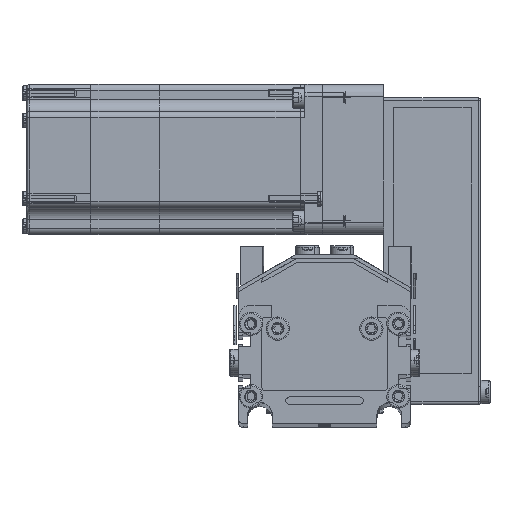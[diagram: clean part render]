
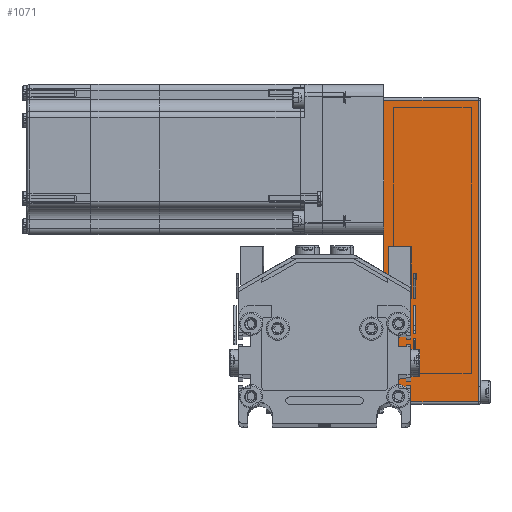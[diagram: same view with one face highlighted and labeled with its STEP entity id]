
A CAD part, top view. The second image highlights one B-rep face of the part: STEP entity #1071.
In plain terms, the highlighted planar face has unit normal (0, 0, 1) as drawn and (0, 1, 0) by its records, which use the part's own axes.
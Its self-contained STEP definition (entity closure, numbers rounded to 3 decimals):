
#904 = ORIENTED_EDGE ( 'NONE', *, *, #1066, .T. ) ;
#908 = VERTEX_POINT ( 'NONE', #61968 ) ;
#994 = EDGE_LOOP ( 'NONE', ( #904, #1130, #1134, #1136 ) ) ;
#1066 = EDGE_CURVE ( 'NONE', #1069, #908, #63330, .T. ) ;
#1069 = VERTEX_POINT ( 'NONE', #63304 ) ;
#1071 = ADVANCED_FACE ( 'NONE', ( #63302 ), #63398, .F. ) ;
#1130 = ORIENTED_EDGE ( 'NONE', *, *, #1208, .T. ) ;
#1131 = EDGE_CURVE ( 'NONE', #1211, #1207, #63089, .T. ) ;
#1134 = ORIENTED_EDGE ( 'NONE', *, *, #1131, .T. ) ;
#1135 = EDGE_CURVE ( 'NONE', #1207, #1069, #63049, .T. ) ;
#1136 = ORIENTED_EDGE ( 'NONE', *, *, #1135, .T. ) ;
#1207 = VERTEX_POINT ( 'NONE', #63658 ) ;
#1208 = EDGE_CURVE ( 'NONE', #908, #1211, #63644, .T. ) ;
#1211 = VERTEX_POINT ( 'NONE', #63655 ) ;
#61968 = CARTESIAN_POINT ( 'NONE',  ( -49., 25., 0. ) ) ;
#62699 = CARTESIAN_POINT ( 'NONE',  ( 74.5, 25., 38.5 ) ) ;
#62784 = DIRECTION ( 'NONE',  ( 0., 0., -1. ) ) ;
#62787 = DIRECTION ( 'NONE',  ( 0., -1., 0. ) ) ;
#62789 = CARTESIAN_POINT ( 'NONE',  ( -50., 25., 39.5 ) ) ;
#62791 = AXIS2_PLACEMENT_3D ( 'NONE', #62789, #62787, #62784 ) ;
#62805 = DIRECTION ( 'NONE',  ( -1., 0., 0. ) ) ;
#62809 = VECTOR ( 'NONE', #62805, 1000. ) ;
#63043 = DIRECTION ( 'NONE',  ( 0., 0., -1. ) ) ;
#63044 = VECTOR ( 'NONE', #63043, 1000. ) ;
#63047 = CARTESIAN_POINT ( 'NONE',  ( 73.5, 25., 39.5 ) ) ;
#63049 = LINE ( 'NONE', #63047, #63044 ) ;
#63061 = DIRECTION ( 'NONE',  ( 1., 0., 0. ) ) ;
#63063 = VECTOR ( 'NONE', #63061, 1000. ) ;
#63089 = LINE ( 'NONE', #62699, #63063 ) ;
#63302 = FACE_OUTER_BOUND ( 'NONE', #994, .T. ) ;
#63304 = CARTESIAN_POINT ( 'NONE',  ( 73.5, 25., 0. ) ) ;
#63328 = CARTESIAN_POINT ( 'NONE',  ( -50., 25., 0. ) ) ;
#63330 = LINE ( 'NONE', #63328, #62809 ) ;
#63398 = PLANE ( 'NONE',  #62791 ) ;
#63537 = DIRECTION ( 'NONE',  ( 0., 0., 1. ) ) ;
#63540 = VECTOR ( 'NONE', #63537, 1000. ) ;
#63643 = CARTESIAN_POINT ( 'NONE',  ( -49., 25., 39.5 ) ) ;
#63644 = LINE ( 'NONE', #63643, #63540 ) ;
#63655 = CARTESIAN_POINT ( 'NONE',  ( -49., 25., 38.5 ) ) ;
#63658 = CARTESIAN_POINT ( 'NONE',  ( 73.5, 25., 38.5 ) ) ;
